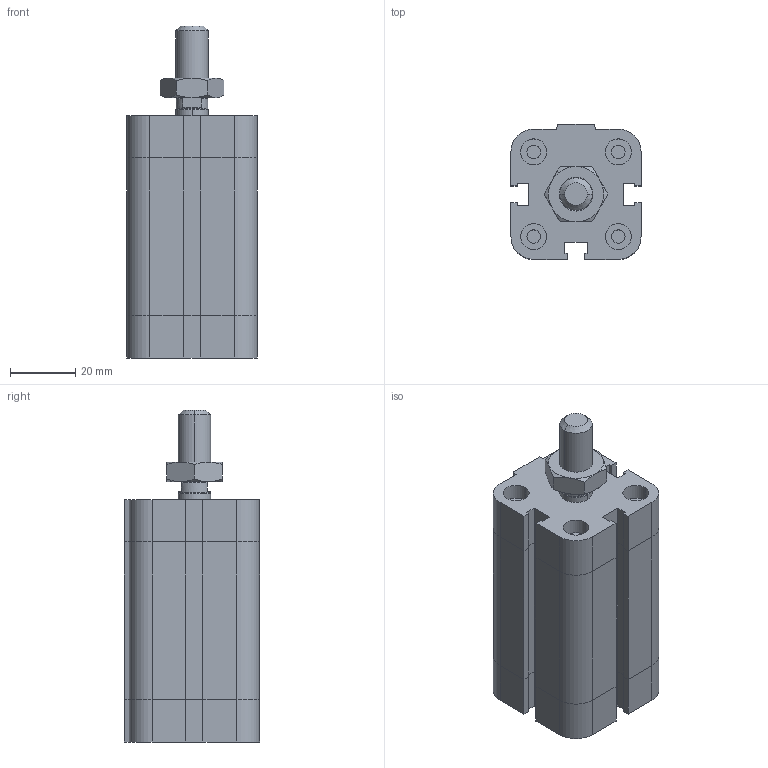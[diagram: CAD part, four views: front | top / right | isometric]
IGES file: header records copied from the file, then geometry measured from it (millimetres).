
Global section: file name: No Iges File Name specified; native system: Autodesk Inventor 2009; preprocessor: AutoDesk Inventor Iges Exporter R2009; author: rivolro1; date: 20081219.161703; units: millimetre
Bounding box: 40 x 41.5 x 102 mm (x, y, z)
Volume: 109440.5 mm3; surface area: 25237.6 mm2
Topology: 3 solids, 3 shells, 216 faces, 472 edges, 282 vertices
Faces by surface type: plane 121, bspline 37, cylinder 20, cone 20, revolution 18
